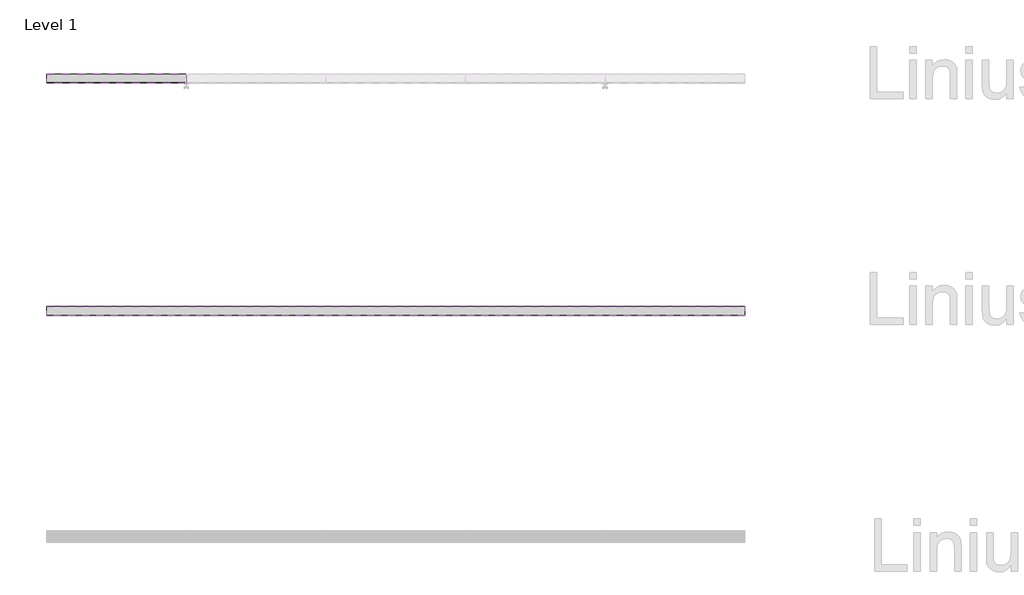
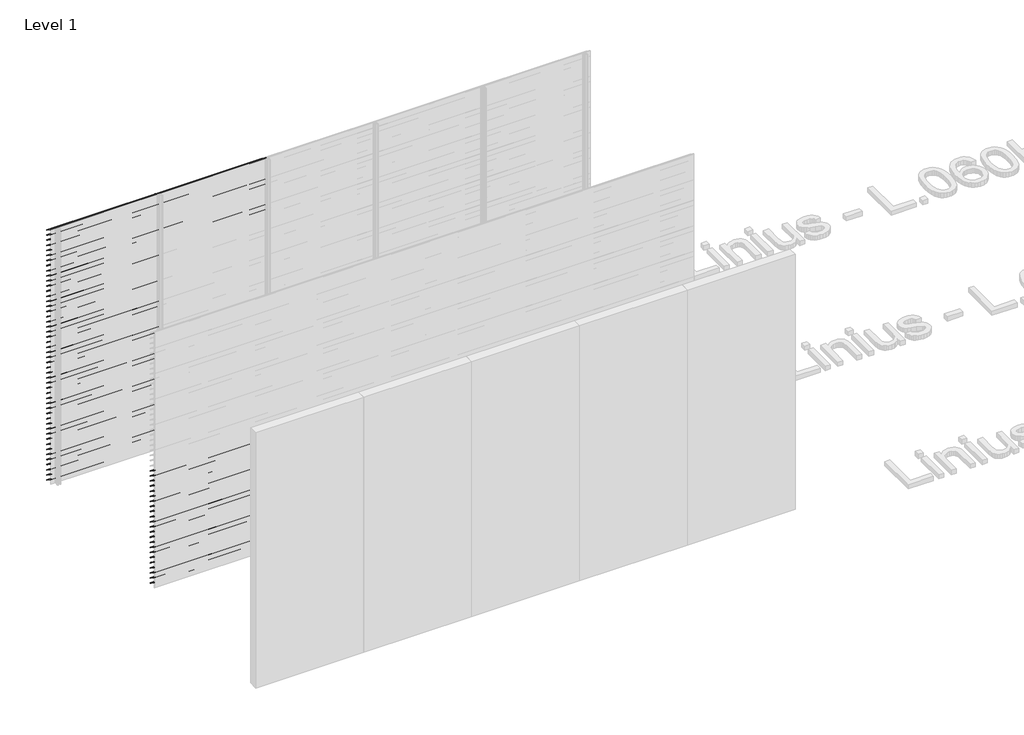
# One storey, part 20 of 153: 85 proxies.
"""IFC4 building model written with IfcOpenShell, lengths in millimetres."""

from ifc_helpers import new_model, si_unit, frame, origin, place, context, project, spatial, polyline, outline, extrude, element, save

model = new_model("IFC4")

# Units and contexts
model_context = context("Model", 3, world=origin())
ifc_project = project(units=[si_unit("LENGTHUNIT", "METRE", prefix="MILLI")], contexts=[model_context])

# Site, building, storey
site = spatial("IfcSite", under=ifc_project)
building = spatial("IfcBuilding", under=site)
storey = spatial("IfcBuildingStorey", under=building, Name="Level 1", Elevation=0.0)

# Proxies
placement = place(None, origin())
element("IfcBuildingElementProxy", 1, Name="Wall Sweeps", at=placement, inside=storey, context=model_context, shape_type="SweptSolid", body=[
    extrude(outline(polyline([(21561.0540136, 2946.0), (21561.0540136, 2940.0), (21559.8040136, 2940.7216933), (21559.8040136, 2945.2538091), (21483.0540136, 2993.9915103), (21483.0540136, 3000.0), (21484.3040136, 3000.0), (21484.3040136, 2994.7377012), (21561.0540136, 2946.0)])), frame((466.6208097, 0.0, 0.0), z_axis=(1.0, 0.0, 0.0), x_axis=(0.0, 1.0, 0.0)), (0.0, 0.0, 1.0), 1200.0000002),
])
element("IfcBuildingElementProxy", 2, Name="Wall Sweeps", at=placement, inside=storey, context=model_context, shape_type="SweptSolid", body=[
    extrude(outline(polyline([(21561.0540136, 2886.0), (21561.0540136, 2880.0), (21559.8040136, 2880.7216933), (21559.8040136, 2885.2538091), (21483.0540136, 2933.9915103), (21483.0540136, 2940.0), (21484.3040136, 2940.0), (21484.3040136, 2934.7377012), (21561.0540136, 2886.0)])), frame((466.6208097, 0.0, 0.0), z_axis=(1.0, 0.0, 0.0), x_axis=(0.0, 1.0, 0.0)), (0.0, 0.0, 1.0), 1200.0000002),
])
element("IfcBuildingElementProxy", 3, Name="Wall Sweeps", at=placement, inside=storey, context=model_context, shape_type="SweptSolid", body=[
    extrude(outline(polyline([(21561.0540136, 2826.0), (21561.0540136, 2820.0), (21559.8040136, 2820.7216933), (21559.8040136, 2825.2538091), (21483.0540136, 2873.9915103), (21483.0540136, 2880.0), (21484.3040136, 2880.0), (21484.3040136, 2874.7377012), (21561.0540136, 2826.0)])), frame((466.6208097, 0.0, 0.0), z_axis=(1.0, 0.0, 0.0), x_axis=(0.0, 1.0, 0.0)), (0.0, 0.0, 1.0), 1200.0000002),
])
element("IfcBuildingElementProxy", 4, Name="Wall Sweeps", at=placement, inside=storey, context=model_context, shape_type="SweptSolid", body=[
    extrude(outline(polyline([(21561.0540136, 2766.0), (21561.0540136, 2760.0), (21559.8040136, 2760.7216933), (21559.8040136, 2765.2538091), (21483.0540136, 2813.9915103), (21483.0540136, 2820.0), (21484.3040136, 2820.0), (21484.3040136, 2814.7377012), (21561.0540136, 2766.0)])), frame((466.6208097, 0.0, 0.0), z_axis=(1.0, 0.0, 0.0), x_axis=(0.0, 1.0, 0.0)), (0.0, 0.0, 1.0), 1200.0000002),
])
element("IfcBuildingElementProxy", 5, Name="Wall Sweeps", at=placement, inside=storey, context=model_context, shape_type="SweptSolid", body=[
    extrude(outline(polyline([(21561.0540136, 2706.0), (21561.0540136, 2700.0), (21559.8040136, 2700.7216933), (21559.8040136, 2705.2538091), (21483.0540136, 2753.9915103), (21483.0540136, 2760.0), (21484.3040136, 2760.0), (21484.3040136, 2754.7377012), (21561.0540136, 2706.0)])), frame((466.6208097, 0.0, 0.0), z_axis=(1.0, 0.0, 0.0), x_axis=(0.0, 1.0, 0.0)), (0.0, 0.0, 1.0), 1200.0000002),
])
element("IfcBuildingElementProxy", 6, Name="Wall Sweeps", at=placement, inside=storey, context=model_context, shape_type="SweptSolid", body=[
    extrude(outline(polyline([(21561.0540136, 2646.0), (21561.0540136, 2640.0), (21559.8040136, 2640.7216933), (21559.8040136, 2645.2538091), (21483.0540136, 2693.9915103), (21483.0540136, 2700.0), (21484.3040136, 2700.0), (21484.3040136, 2694.7377012), (21561.0540136, 2646.0)])), frame((466.6208097, 0.0, 0.0), z_axis=(1.0, 0.0, 0.0), x_axis=(0.0, 1.0, 0.0)), (0.0, 0.0, 1.0), 1200.0000002),
])
element("IfcBuildingElementProxy", 7, Name="Wall Sweeps", at=placement, inside=storey, context=model_context, shape_type="SweptSolid", body=[
    extrude(outline(polyline([(21561.0540136, 2586.0), (21561.0540136, 2580.0), (21559.8040136, 2580.7216933), (21559.8040136, 2585.2538091), (21483.0540136, 2633.9915103), (21483.0540136, 2640.0), (21484.3040136, 2640.0), (21484.3040136, 2634.7377012), (21561.0540136, 2586.0)])), frame((466.6208097, 0.0, 0.0), z_axis=(1.0, 0.0, 0.0), x_axis=(0.0, 1.0, 0.0)), (0.0, 0.0, 1.0), 1200.0000002),
])
element("IfcBuildingElementProxy", 8, Name="Wall Sweeps", at=placement, inside=storey, context=model_context, shape_type="SweptSolid", body=[
    extrude(outline(polyline([(21561.0540136, 2526.0), (21561.0540136, 2520.0), (21559.8040136, 2520.7216933), (21559.8040136, 2525.2538091), (21483.0540136, 2573.9915103), (21483.0540136, 2580.0), (21484.3040136, 2580.0), (21484.3040136, 2574.7377012), (21561.0540136, 2526.0)])), frame((466.6208097, 0.0, 0.0), z_axis=(1.0, 0.0, 0.0), x_axis=(0.0, 1.0, 0.0)), (0.0, 0.0, 1.0), 1200.0000002),
])
element("IfcBuildingElementProxy", 9, Name="Wall Sweeps", at=placement, inside=storey, context=model_context, shape_type="SweptSolid", body=[
    extrude(outline(polyline([(21561.0540136, 2466.0), (21561.0540136, 2460.0), (21559.8040136, 2460.7216933), (21559.8040136, 2465.2538091), (21483.0540136, 2513.9915103), (21483.0540136, 2520.0), (21484.3040136, 2520.0), (21484.3040136, 2514.7377012), (21561.0540136, 2466.0)])), frame((466.6208097, 0.0, 0.0), z_axis=(1.0, 0.0, 0.0), x_axis=(0.0, 1.0, 0.0)), (0.0, 0.0, 1.0), 1200.0000002),
])
element("IfcBuildingElementProxy", 10, Name="Wall Sweeps", at=placement, inside=storey, context=model_context, shape_type="SweptSolid", body=[
    extrude(outline(polyline([(21561.0540136, 2406.0), (21561.0540136, 2400.0), (21559.8040136, 2400.7216933), (21559.8040136, 2405.2538091), (21483.0540136, 2453.9915103), (21483.0540136, 2460.0), (21484.3040136, 2460.0), (21484.3040136, 2454.7377012), (21561.0540136, 2406.0)])), frame((466.6208097, 0.0, 0.0), z_axis=(1.0, 0.0, 0.0), x_axis=(0.0, 1.0, 0.0)), (0.0, 0.0, 1.0), 1200.0000002),
])
element("IfcBuildingElementProxy", 11, Name="Wall Sweeps", at=placement, inside=storey, context=model_context, shape_type="SweptSolid", body=[
    extrude(outline(polyline([(21561.0540136, 2346.0), (21561.0540136, 2340.0), (21559.8040136, 2340.7216933), (21559.8040136, 2345.2538091), (21483.0540136, 2393.9915103), (21483.0540136, 2400.0), (21484.3040136, 2400.0), (21484.3040136, 2394.7377012), (21561.0540136, 2346.0)])), frame((466.6208097, 0.0, 0.0), z_axis=(1.0, 0.0, 0.0), x_axis=(0.0, 1.0, 0.0)), (0.0, 0.0, 1.0), 1200.0000002),
])
element("IfcBuildingElementProxy", 12, Name="Wall Sweeps", at=placement, inside=storey, context=model_context, shape_type="SweptSolid", body=[
    extrude(outline(polyline([(21561.0540136, 2286.0), (21561.0540136, 2280.0), (21559.8040136, 2280.7216933), (21559.8040136, 2285.2538091), (21483.0540136, 2333.9915103), (21483.0540136, 2340.0), (21484.3040136, 2340.0), (21484.3040136, 2334.7377012), (21561.0540136, 2286.0)])), frame((466.6208097, 0.0, 0.0), z_axis=(1.0, 0.0, 0.0), x_axis=(0.0, 1.0, 0.0)), (0.0, 0.0, 1.0), 1200.0000002),
])
element("IfcBuildingElementProxy", 13, Name="Wall Sweeps", at=placement, inside=storey, context=model_context, shape_type="SweptSolid", body=[
    extrude(outline(polyline([(21561.0540136, 2226.0), (21561.0540136, 2220.0), (21559.8040136, 2220.7216933), (21559.8040136, 2225.2538091), (21483.0540136, 2273.9915103), (21483.0540136, 2280.0), (21484.3040136, 2280.0), (21484.3040136, 2274.7377012), (21561.0540136, 2226.0)])), frame((466.6208097, 0.0, 0.0), z_axis=(1.0, 0.0, 0.0), x_axis=(0.0, 1.0, 0.0)), (0.0, 0.0, 1.0), 1200.0000002),
])
element("IfcBuildingElementProxy", 14, Name="Wall Sweeps", at=placement, inside=storey, context=model_context, shape_type="SweptSolid", body=[
    extrude(outline(polyline([(21561.0540136, 2166.0), (21561.0540136, 2160.0), (21559.8040136, 2160.7216933), (21559.8040136, 2165.2538091), (21483.0540136, 2213.9915103), (21483.0540136, 2220.0), (21484.3040136, 2220.0), (21484.3040136, 2214.7377012), (21561.0540136, 2166.0)])), frame((466.6208097, 0.0, 0.0), z_axis=(1.0, 0.0, 0.0), x_axis=(0.0, 1.0, 0.0)), (0.0, 0.0, 1.0), 1200.0000002),
])
element("IfcBuildingElementProxy", 15, Name="Wall Sweeps", at=placement, inside=storey, context=model_context, shape_type="SweptSolid", body=[
    extrude(outline(polyline([(21561.0540136, 2106.0), (21561.0540136, 2100.0), (21559.8040136, 2100.7216933), (21559.8040136, 2105.2538091), (21483.0540136, 2153.9915103), (21483.0540136, 2160.0), (21484.3040136, 2160.0), (21484.3040136, 2154.7377012), (21561.0540136, 2106.0)])), frame((466.6208097, 0.0, 0.0), z_axis=(1.0, 0.0, 0.0), x_axis=(0.0, 1.0, 0.0)), (0.0, 0.0, 1.0), 1200.0000002),
])
element("IfcBuildingElementProxy", 16, Name="Wall Sweeps", at=placement, inside=storey, context=model_context, shape_type="SweptSolid", body=[
    extrude(outline(polyline([(21561.0540136, 2046.0), (21561.0540136, 2040.0), (21559.8040136, 2040.7216933), (21559.8040136, 2045.2538091), (21483.0540136, 2093.9915103), (21483.0540136, 2100.0), (21484.3040136, 2100.0), (21484.3040136, 2094.7377012), (21561.0540136, 2046.0)])), frame((466.6208097, 0.0, 0.0), z_axis=(1.0, 0.0, 0.0), x_axis=(0.0, 1.0, 0.0)), (0.0, 0.0, 1.0), 1200.0000002),
])
element("IfcBuildingElementProxy", 17, Name="Wall Sweeps", at=placement, inside=storey, context=model_context, shape_type="SweptSolid", body=[
    extrude(outline(polyline([(21561.0540136, 1986.0), (21561.0540136, 1980.0), (21559.8040136, 1980.7216933), (21559.8040136, 1985.2538091), (21483.0540136, 2033.9915103), (21483.0540136, 2040.0), (21484.3040136, 2040.0), (21484.3040136, 2034.7377012), (21561.0540136, 1986.0)])), frame((466.6208097, 0.0, 0.0), z_axis=(1.0, 0.0, 0.0), x_axis=(0.0, 1.0, 0.0)), (0.0, 0.0, 1.0), 1200.0000002),
])
element("IfcBuildingElementProxy", 18, Name="Wall Sweeps", at=placement, inside=storey, context=model_context, shape_type="SweptSolid", body=[
    extrude(outline(polyline([(21561.0540136, 1926.0), (21561.0540136, 1920.0), (21559.8040136, 1920.7216933), (21559.8040136, 1925.2538091), (21483.0540136, 1973.9915103), (21483.0540136, 1980.0), (21484.3040136, 1980.0), (21484.3040136, 1974.7377012), (21561.0540136, 1926.0)])), frame((466.6208097, 0.0, 0.0), z_axis=(1.0, 0.0, 0.0), x_axis=(0.0, 1.0, 0.0)), (0.0, 0.0, 1.0), 1200.0000002),
])
element("IfcBuildingElementProxy", 19, Name="Wall Sweeps", at=placement, inside=storey, context=model_context, shape_type="SweptSolid", body=[
    extrude(outline(polyline([(21561.0540136, 1866.0), (21561.0540136, 1860.0), (21559.8040136, 1860.7216933), (21559.8040136, 1865.2538091), (21483.0540136, 1913.9915103), (21483.0540136, 1920.0), (21484.3040136, 1920.0), (21484.3040136, 1914.7377012), (21561.0540136, 1866.0)])), frame((466.6208097, 0.0, 0.0), z_axis=(1.0, 0.0, 0.0), x_axis=(0.0, 1.0, 0.0)), (0.0, 0.0, 1.0), 1200.0000002),
])
element("IfcBuildingElementProxy", 20, Name="Wall Sweeps", at=placement, inside=storey, context=model_context, shape_type="SweptSolid", body=[
    extrude(outline(polyline([(21561.0540136, 1806.0), (21561.0540136, 1800.0), (21559.8040136, 1800.7216933), (21559.8040136, 1805.2538091), (21483.0540136, 1853.9915103), (21483.0540136, 1860.0), (21484.3040136, 1860.0), (21484.3040136, 1854.7377012), (21561.0540136, 1806.0)])), frame((466.6208097, 0.0, 0.0), z_axis=(1.0, 0.0, 0.0), x_axis=(0.0, 1.0, 0.0)), (0.0, 0.0, 1.0), 1200.0000002),
])
element("IfcBuildingElementProxy", 21, Name="Wall Sweeps", at=placement, inside=storey, context=model_context, shape_type="SweptSolid", body=[
    extrude(outline(polyline([(21561.0540136, 1746.0), (21561.0540136, 1740.0), (21559.8040136, 1740.7216933), (21559.8040136, 1745.2538091), (21483.0540136, 1793.9915103), (21483.0540136, 1800.0), (21484.3040136, 1800.0), (21484.3040136, 1794.7377012), (21561.0540136, 1746.0)])), frame((466.6208097, 0.0, 0.0), z_axis=(1.0, 0.0, 0.0), x_axis=(0.0, 1.0, 0.0)), (0.0, 0.0, 1.0), 1200.0000002),
])
element("IfcBuildingElementProxy", 22, Name="Wall Sweeps", at=placement, inside=storey, context=model_context, shape_type="SweptSolid", body=[
    extrude(outline(polyline([(21561.0540136, 1686.0), (21561.0540136, 1680.0), (21559.8040136, 1680.7216933), (21559.8040136, 1685.2538091), (21483.0540136, 1733.9915103), (21483.0540136, 1740.0), (21484.3040136, 1740.0), (21484.3040136, 1734.7377012), (21561.0540136, 1686.0)])), frame((466.6208097, 0.0, 0.0), z_axis=(1.0, 0.0, 0.0), x_axis=(0.0, 1.0, 0.0)), (0.0, 0.0, 1.0), 1200.0000002),
])
element("IfcBuildingElementProxy", 23, Name="Wall Sweeps", at=placement, inside=storey, context=model_context, shape_type="SweptSolid", body=[
    extrude(outline(polyline([(21561.0540136, 1626.0), (21561.0540136, 1620.0), (21559.8040136, 1620.7216933), (21559.8040136, 1625.2538091), (21483.0540136, 1673.9915103), (21483.0540136, 1680.0), (21484.3040136, 1680.0), (21484.3040136, 1674.7377012), (21561.0540136, 1626.0)])), frame((466.6208097, 0.0, 0.0), z_axis=(1.0, 0.0, 0.0), x_axis=(0.0, 1.0, 0.0)), (0.0, 0.0, 1.0), 1200.0000002),
])
element("IfcBuildingElementProxy", 24, Name="Wall Sweeps", at=placement, inside=storey, context=model_context, shape_type="SweptSolid", body=[
    extrude(outline(polyline([(21561.0540136, 1566.0), (21561.0540136, 1560.0), (21559.8040136, 1560.7216933), (21559.8040136, 1565.2538091), (21483.0540136, 1613.9915103), (21483.0540136, 1620.0), (21484.3040136, 1620.0), (21484.3040136, 1614.7377012), (21561.0540136, 1566.0)])), frame((466.6208097, 0.0, 0.0), z_axis=(1.0, 0.0, 0.0), x_axis=(0.0, 1.0, 0.0)), (0.0, 0.0, 1.0), 1200.0000002),
])
element("IfcBuildingElementProxy", 25, Name="Wall Sweeps", at=placement, inside=storey, context=model_context, shape_type="SweptSolid", body=[
    extrude(outline(polyline([(21561.0540136, 1506.0), (21561.0540136, 1500.0), (21559.8040136, 1500.7216933), (21559.8040136, 1505.2538091), (21483.0540136, 1553.9915103), (21483.0540136, 1560.0), (21484.3040136, 1560.0), (21484.3040136, 1554.7377012), (21561.0540136, 1506.0)])), frame((466.6208097, 0.0, 0.0), z_axis=(1.0, 0.0, 0.0), x_axis=(0.0, 1.0, 0.0)), (0.0, 0.0, 1.0), 1200.0000002),
])
element("IfcBuildingElementProxy", 26, Name="Wall Sweeps", at=placement, inside=storey, context=model_context, shape_type="SweptSolid", body=[
    extrude(outline(polyline([(21561.0540136, 1446.0), (21561.0540136, 1440.0), (21559.8040136, 1440.7216933), (21559.8040136, 1445.2538091), (21483.0540136, 1493.9915103), (21483.0540136, 1500.0), (21484.3040136, 1500.0), (21484.3040136, 1494.7377012), (21561.0540136, 1446.0)])), frame((466.6208097, 0.0, 0.0), z_axis=(1.0, 0.0, 0.0), x_axis=(0.0, 1.0, 0.0)), (0.0, 0.0, 1.0), 1200.0000002),
])
element("IfcBuildingElementProxy", 27, Name="Wall Sweeps", at=placement, inside=storey, context=model_context, shape_type="SweptSolid", body=[
    extrude(outline(polyline([(21561.0540136, 1386.0), (21561.0540136, 1380.0), (21559.8040136, 1380.7216933), (21559.8040136, 1385.2538091), (21483.0540136, 1433.9915103), (21483.0540136, 1440.0), (21484.3040136, 1440.0), (21484.3040136, 1434.7377012), (21561.0540136, 1386.0)])), frame((466.6208097, 0.0, 0.0), z_axis=(1.0, 0.0, 0.0), x_axis=(0.0, 1.0, 0.0)), (0.0, 0.0, 1.0), 1200.0000002),
])
element("IfcBuildingElementProxy", 28, Name="Wall Sweeps", at=placement, inside=storey, context=model_context, shape_type="SweptSolid", body=[
    extrude(outline(polyline([(21561.0540136, 1326.0), (21561.0540136, 1320.0), (21559.8040136, 1320.7216933), (21559.8040136, 1325.2538091), (21483.0540136, 1373.9915103), (21483.0540136, 1380.0), (21484.3040136, 1380.0), (21484.3040136, 1374.7377012), (21561.0540136, 1326.0)])), frame((466.6208097, 0.0, 0.0), z_axis=(1.0, 0.0, 0.0), x_axis=(0.0, 1.0, 0.0)), (0.0, 0.0, 1.0), 1200.0000002),
])
element("IfcBuildingElementProxy", 29, Name="Wall Sweeps", at=placement, inside=storey, context=model_context, shape_type="SweptSolid", body=[
    extrude(outline(polyline([(21561.0540136, 1266.0), (21561.0540136, 1260.0), (21559.8040136, 1260.7216933), (21559.8040136, 1265.2538091), (21483.0540136, 1313.9915103), (21483.0540136, 1320.0), (21484.3040136, 1320.0), (21484.3040136, 1314.7377012), (21561.0540136, 1266.0)])), frame((466.6208097, 0.0, 0.0), z_axis=(1.0, 0.0, 0.0), x_axis=(0.0, 1.0, 0.0)), (0.0, 0.0, 1.0), 1200.0000002),
])
element("IfcBuildingElementProxy", 30, Name="Wall Sweeps", at=placement, inside=storey, context=model_context, shape_type="SweptSolid", body=[
    extrude(outline(polyline([(21561.0540136, 1206.0), (21561.0540136, 1200.0), (21559.8040136, 1200.7216933), (21559.8040136, 1205.2538091), (21483.0540136, 1253.9915103), (21483.0540136, 1260.0), (21484.3040136, 1260.0), (21484.3040136, 1254.7377012), (21561.0540136, 1206.0)])), frame((466.6208097, 0.0, 0.0), z_axis=(1.0, 0.0, 0.0), x_axis=(0.0, 1.0, 0.0)), (0.0, 0.0, 1.0), 1200.0000002),
])
element("IfcBuildingElementProxy", 31, Name="Wall Sweeps", at=placement, inside=storey, context=model_context, shape_type="SweptSolid", body=[
    extrude(outline(polyline([(21561.0540136, 1146.0), (21561.0540136, 1140.0), (21559.8040136, 1140.7216933), (21559.8040136, 1145.2538091), (21483.0540136, 1193.9915103), (21483.0540136, 1200.0), (21484.3040136, 1200.0), (21484.3040136, 1194.7377012), (21561.0540136, 1146.0)])), frame((466.6208097, 0.0, 0.0), z_axis=(1.0, 0.0, 0.0), x_axis=(0.0, 1.0, 0.0)), (0.0, 0.0, 1.0), 1200.0000002),
])
element("IfcBuildingElementProxy", 32, Name="Wall Sweeps", at=placement, inside=storey, context=model_context, shape_type="SweptSolid", body=[
    extrude(outline(polyline([(21561.0540136, 1086.0), (21561.0540136, 1080.0), (21559.8040136, 1080.7216933), (21559.8040136, 1085.2538091), (21483.0540136, 1133.9915103), (21483.0540136, 1140.0), (21484.3040136, 1140.0), (21484.3040136, 1134.7377012), (21561.0540136, 1086.0)])), frame((466.6208097, 0.0, 0.0), z_axis=(1.0, 0.0, 0.0), x_axis=(0.0, 1.0, 0.0)), (0.0, 0.0, 1.0), 1200.0000002),
])
element("IfcBuildingElementProxy", 33, Name="Wall Sweeps", at=placement, inside=storey, context=model_context, shape_type="SweptSolid", body=[
    extrude(outline(polyline([(21561.0540136, 1026.0), (21561.0540136, 1020.0), (21559.8040136, 1020.7216933), (21559.8040136, 1025.2538091), (21483.0540136, 1073.9915103), (21483.0540136, 1080.0), (21484.3040136, 1080.0), (21484.3040136, 1074.7377012), (21561.0540136, 1026.0)])), frame((466.6208097, 0.0, 0.0), z_axis=(1.0, 0.0, 0.0), x_axis=(0.0, 1.0, 0.0)), (0.0, 0.0, 1.0), 1200.0000002),
])
element("IfcBuildingElementProxy", 34, Name="Wall Sweeps", at=placement, inside=storey, context=model_context, shape_type="SweptSolid", body=[
    extrude(outline(polyline([(21561.0540136, 966.0), (21561.0540136, 960.0), (21559.8040136, 960.7216933), (21559.8040136, 965.2538091), (21483.0540136, 1013.9915103), (21483.0540136, 1020.0), (21484.3040136, 1020.0), (21484.3040136, 1014.7377012), (21561.0540136, 966.0)])), frame((466.6208097, 0.0, 0.0), z_axis=(1.0, 0.0, 0.0), x_axis=(0.0, 1.0, 0.0)), (0.0, 0.0, 1.0), 1200.0000002),
])
element("IfcBuildingElementProxy", 35, Name="Wall Sweeps", at=placement, inside=storey, context=model_context, shape_type="SweptSolid", body=[
    extrude(outline(polyline([(21561.0540136, 906.0), (21561.0540136, 900.0), (21559.8040136, 900.7216933), (21559.8040136, 905.2538091), (21483.0540136, 953.9915103), (21483.0540136, 960.0), (21484.3040136, 960.0), (21484.3040136, 954.7377012), (21561.0540136, 906.0)])), frame((466.6208097, 0.0, 0.0), z_axis=(1.0, 0.0, 0.0), x_axis=(0.0, 1.0, 0.0)), (0.0, 0.0, 1.0), 1200.0000002),
])
element("IfcBuildingElementProxy", 36, Name="Wall Sweeps", at=placement, inside=storey, context=model_context, shape_type="SweptSolid", body=[
    extrude(outline(polyline([(21561.0540136, 846.0), (21561.0540136, 840.0), (21559.8040136, 840.7216933), (21559.8040136, 845.2538091), (21483.0540136, 893.9915103), (21483.0540136, 900.0), (21484.3040136, 900.0), (21484.3040136, 894.7377012), (21561.0540136, 846.0)])), frame((466.6208097, 0.0, 0.0), z_axis=(1.0, 0.0, 0.0), x_axis=(0.0, 1.0, 0.0)), (0.0, 0.0, 1.0), 1200.0000002),
])
element("IfcBuildingElementProxy", 37, Name="Wall Sweeps", at=placement, inside=storey, context=model_context, shape_type="SweptSolid", body=[
    extrude(outline(polyline([(21561.0540136, 786.0), (21561.0540136, 780.0), (21559.8040136, 780.7216933), (21559.8040136, 785.2538091), (21483.0540136, 833.9915103), (21483.0540136, 840.0), (21484.3040136, 840.0), (21484.3040136, 834.7377012), (21561.0540136, 786.0)])), frame((466.6208097, 0.0, 0.0), z_axis=(1.0, 0.0, 0.0), x_axis=(0.0, 1.0, 0.0)), (0.0, 0.0, 1.0), 1200.0000002),
])
element("IfcBuildingElementProxy", 38, Name="Wall Sweeps", at=placement, inside=storey, context=model_context, shape_type="SweptSolid", body=[
    extrude(outline(polyline([(21561.0540136, 726.0), (21561.0540136, 720.0), (21559.8040136, 720.7216933), (21559.8040136, 725.2538091), (21483.0540136, 773.9915103), (21483.0540136, 780.0), (21484.3040136, 780.0), (21484.3040136, 774.7377012), (21561.0540136, 726.0)])), frame((466.6208097, 0.0, 0.0), z_axis=(1.0, 0.0, 0.0), x_axis=(0.0, 1.0, 0.0)), (0.0, 0.0, 1.0), 1200.0000002),
])
element("IfcBuildingElementProxy", 39, Name="Wall Sweeps", at=placement, inside=storey, context=model_context, shape_type="SweptSolid", body=[
    extrude(outline(polyline([(21561.0540136, 666.0), (21561.0540136, 660.0), (21559.8040136, 660.7216933), (21559.8040136, 665.2538091), (21483.0540136, 713.9915103), (21483.0540136, 720.0), (21484.3040136, 720.0), (21484.3040136, 714.7377012), (21561.0540136, 666.0)])), frame((466.6208097, 0.0, 0.0), z_axis=(1.0, 0.0, 0.0), x_axis=(0.0, 1.0, 0.0)), (0.0, 0.0, 1.0), 1200.0000002),
])
element("IfcBuildingElementProxy", 40, Name="Wall Sweeps", at=placement, inside=storey, context=model_context, shape_type="SweptSolid", body=[
    extrude(outline(polyline([(21561.0540136, 606.0), (21561.0540136, 600.0), (21559.8040136, 600.7216933), (21559.8040136, 605.2538091), (21483.0540136, 653.9915103), (21483.0540136, 660.0), (21484.3040136, 660.0), (21484.3040136, 654.7377012), (21561.0540136, 606.0)])), frame((466.6208097, 0.0, 0.0), z_axis=(1.0, 0.0, 0.0), x_axis=(0.0, 1.0, 0.0)), (0.0, 0.0, 1.0), 1200.0000002),
])
element("IfcBuildingElementProxy", 41, Name="Wall Sweeps", at=placement, inside=storey, context=model_context, shape_type="SweptSolid", body=[
    extrude(outline(polyline([(21561.0540136, 546.0), (21561.0540136, 540.0), (21559.8040136, 540.7216933), (21559.8040136, 545.2538091), (21483.0540136, 593.9915103), (21483.0540136, 600.0), (21484.3040136, 600.0), (21484.3040136, 594.7377012), (21561.0540136, 546.0)])), frame((466.6208097, 0.0, 0.0), z_axis=(1.0, 0.0, 0.0), x_axis=(0.0, 1.0, 0.0)), (0.0, 0.0, 1.0), 1200.0000002),
])
element("IfcBuildingElementProxy", 42, Name="Wall Sweeps", at=placement, inside=storey, context=model_context, shape_type="SweptSolid", body=[
    extrude(outline(polyline([(21561.0540136, 486.0), (21561.0540136, 480.0), (21559.8040136, 480.7216933), (21559.8040136, 485.2538091), (21483.0540136, 533.9915103), (21483.0540136, 540.0), (21484.3040136, 540.0), (21484.3040136, 534.7377012), (21561.0540136, 486.0)])), frame((466.6208097, 0.0, 0.0), z_axis=(1.0, 0.0, 0.0), x_axis=(0.0, 1.0, 0.0)), (0.0, 0.0, 1.0), 1200.0000002),
])
element("IfcBuildingElementProxy", 43, Name="Wall Sweeps", at=placement, inside=storey, context=model_context, shape_type="SweptSolid", body=[
    extrude(outline(polyline([(21561.0540136, 426.0), (21561.0540136, 420.0), (21559.8040136, 420.7216933), (21559.8040136, 425.2538091), (21483.0540136, 473.9915103), (21483.0540136, 480.0), (21484.3040136, 480.0), (21484.3040136, 474.7377012), (21561.0540136, 426.0)])), frame((466.6208097, 0.0, 0.0), z_axis=(1.0, 0.0, 0.0), x_axis=(0.0, 1.0, 0.0)), (0.0, 0.0, 1.0), 1200.0000002),
])
element("IfcBuildingElementProxy", 44, Name="Wall Sweeps", at=placement, inside=storey, context=model_context, shape_type="SweptSolid", body=[
    extrude(outline(polyline([(21561.0540136, 366.0), (21561.0540136, 360.0), (21559.8040136, 360.7216933), (21559.8040136, 365.2538091), (21483.0540136, 413.9915103), (21483.0540136, 420.0), (21484.3040136, 420.0), (21484.3040136, 414.7377012), (21561.0540136, 366.0)])), frame((466.6208097, 0.0, 0.0), z_axis=(1.0, 0.0, 0.0), x_axis=(0.0, 1.0, 0.0)), (0.0, 0.0, 1.0), 1200.0000002),
])
element("IfcBuildingElementProxy", 45, Name="Wall Sweeps", at=placement, inside=storey, context=model_context, shape_type="SweptSolid", body=[
    extrude(outline(polyline([(21561.0540136, 306.0), (21561.0540136, 300.0), (21559.8040136, 300.7216933), (21559.8040136, 305.2538091), (21483.0540136, 353.9915103), (21483.0540136, 360.0), (21484.3040136, 360.0), (21484.3040136, 354.7377012), (21561.0540136, 306.0)])), frame((466.6208097, 0.0, 0.0), z_axis=(1.0, 0.0, 0.0), x_axis=(0.0, 1.0, 0.0)), (0.0, 0.0, 1.0), 1200.0000002),
])
element("IfcBuildingElementProxy", 46, Name="Wall Sweeps", at=placement, inside=storey, context=model_context, shape_type="SweptSolid", body=[
    extrude(outline(polyline([(21561.0540136, 246.0), (21561.0540136, 240.0), (21559.8040136, 240.7216933), (21559.8040136, 245.2538091), (21483.0540136, 293.9915103), (21483.0540136, 300.0), (21484.3040136, 300.0), (21484.3040136, 294.7377012), (21561.0540136, 246.0)])), frame((466.6208097, 0.0, 0.0), z_axis=(1.0, 0.0, 0.0), x_axis=(0.0, 1.0, 0.0)), (0.0, 0.0, 1.0), 1200.0000002),
])
element("IfcBuildingElementProxy", 47, Name="Wall Sweeps", at=placement, inside=storey, context=model_context, shape_type="SweptSolid", body=[
    extrude(outline(polyline([(21561.0540136, 186.0), (21561.0540136, 180.0), (21559.8040136, 180.7216933), (21559.8040136, 185.2538091), (21483.0540136, 233.9915103), (21483.0540136, 240.0), (21484.3040136, 240.0), (21484.3040136, 234.7377012), (21561.0540136, 186.0)])), frame((466.6208097, 0.0, 0.0), z_axis=(1.0, 0.0, 0.0), x_axis=(0.0, 1.0, 0.0)), (0.0, 0.0, 1.0), 1200.0000002),
])
element("IfcBuildingElementProxy", 48, Name="Wall Sweeps", at=placement, inside=storey, context=model_context, shape_type="SweptSolid", body=[
    extrude(outline(polyline([(21561.0540136, 126.0), (21561.0540136, 120.0), (21559.8040136, 120.7216933), (21559.8040136, 125.2538091), (21483.0540136, 173.9915103), (21483.0540136, 180.0), (21484.3040136, 180.0), (21484.3040136, 174.7377012), (21561.0540136, 126.0)])), frame((466.6208097, 0.0, 0.0), z_axis=(1.0, 0.0, 0.0), x_axis=(0.0, 1.0, 0.0)), (0.0, 0.0, 1.0), 1200.0000002),
])
element("IfcBuildingElementProxy", 49, Name="Wall Sweeps", at=placement, inside=storey, context=model_context, shape_type="SweptSolid", body=[
    extrude(outline(polyline([(21561.0540136, 66.0), (21561.0540136, 60.0), (21559.8040136, 60.7216933), (21559.8040136, 65.2538091), (21483.0540136, 113.9915103), (21483.0540136, 120.0), (21484.3040136, 120.0), (21484.3040136, 114.7377012), (21561.0540136, 66.0)])), frame((466.6208097, 0.0, 0.0), z_axis=(1.0, 0.0, 0.0), x_axis=(0.0, 1.0, 0.0)), (0.0, 0.0, 1.0), 1200.0000002),
])
element("IfcBuildingElementProxy", 50, Name="Wall Sweeps", at=placement, inside=storey, context=model_context, shape_type="SweptSolid", body=[
    extrude(outline(polyline([(21561.0540136, 6.0), (21561.0540136, 0.0), (21559.8040136, 0.7216933), (21559.8040136, 5.2538091), (21483.0540136, 53.9915103), (21483.0540136, 60.0), (21484.3040136, 60.0), (21484.3040136, 54.7377012), (21561.0540136, 6.0)])), frame((466.6208097, 0.0, 0.0), z_axis=(1.0, 0.0, 0.0), x_axis=(0.0, 1.0, 0.0)), (0.0, 0.0, 1.0), 1200.0000002),
])
element("IfcBuildingElementProxy", 51, Name="Wall Sweeps", at=placement, inside=storey, context=model_context, shape_type="SweptSolid", body=[
    extrude(outline(polyline([(21561.0540136, 2946.0), (21561.0540136, 2940.0), (21559.8040136, 2940.7216933), (21559.8040136, 2945.2538091), (21483.0540136, 2993.9915103), (21483.0540136, 3000.0), (21484.3040136, 3000.0), (21484.3040136, 2994.7377012), (21561.0540136, 2946.0)])), frame((1666.6208099, 0.0, 0.0), z_axis=(1.0, 0.0, 0.0), x_axis=(0.0, 1.0, 0.0)), (0.0, 0.0, 1.0), 1199.9999999),
])
element("IfcBuildingElementProxy", 52, Name="Wall Sweeps", at=placement, inside=storey, context=model_context, shape_type="SweptSolid", body=[
    extrude(outline(polyline([(21561.0540136, 2886.0), (21561.0540136, 2880.0), (21559.8040136, 2880.7216933), (21559.8040136, 2885.2538091), (21483.0540136, 2933.9915103), (21483.0540136, 2940.0), (21484.3040136, 2940.0), (21484.3040136, 2934.7377012), (21561.0540136, 2886.0)])), frame((1666.6208099, 0.0, 0.0), z_axis=(1.0, 0.0, 0.0), x_axis=(0.0, 1.0, 0.0)), (0.0, 0.0, 1.0), 1199.9999999),
])
element("IfcBuildingElementProxy", 53, Name="Wall Sweeps", at=placement, inside=storey, context=model_context, shape_type="SweptSolid", body=[
    extrude(outline(polyline([(21561.0540136, 2826.0), (21561.0540136, 2820.0), (21559.8040136, 2820.7216933), (21559.8040136, 2825.2538091), (21483.0540136, 2873.9915103), (21483.0540136, 2880.0), (21484.3040136, 2880.0), (21484.3040136, 2874.7377012), (21561.0540136, 2826.0)])), frame((1666.6208099, 0.0, 0.0), z_axis=(1.0, 0.0, 0.0), x_axis=(0.0, 1.0, 0.0)), (0.0, 0.0, 1.0), 1199.9999999),
])
element("IfcBuildingElementProxy", 54, Name="Wall Sweeps", at=placement, inside=storey, context=model_context, shape_type="SweptSolid", body=[
    extrude(outline(polyline([(21561.0540136, 2766.0), (21561.0540136, 2760.0), (21559.8040136, 2760.7216933), (21559.8040136, 2765.2538091), (21483.0540136, 2813.9915103), (21483.0540136, 2820.0), (21484.3040136, 2820.0), (21484.3040136, 2814.7377012), (21561.0540136, 2766.0)])), frame((1666.6208099, 0.0, 0.0), z_axis=(1.0, 0.0, 0.0), x_axis=(0.0, 1.0, 0.0)), (0.0, 0.0, 1.0), 1199.9999999),
])
element("IfcBuildingElementProxy", 55, Name="Wall Sweeps", at=placement, inside=storey, context=model_context, shape_type="SweptSolid", body=[
    extrude(outline(polyline([(21561.0540136, 2706.0), (21561.0540136, 2700.0), (21559.8040136, 2700.7216933), (21559.8040136, 2705.2538091), (21483.0540136, 2753.9915103), (21483.0540136, 2760.0), (21484.3040136, 2760.0), (21484.3040136, 2754.7377012), (21561.0540136, 2706.0)])), frame((1666.6208099, 0.0, 0.0), z_axis=(1.0, 0.0, 0.0), x_axis=(0.0, 1.0, 0.0)), (0.0, 0.0, 1.0), 1199.9999999),
])
element("IfcBuildingElementProxy", 56, Name="Wall Sweeps", at=placement, inside=storey, context=model_context, shape_type="SweptSolid", body=[
    extrude(outline(polyline([(21561.0540136, 2646.0), (21561.0540136, 2640.0), (21559.8040136, 2640.7216933), (21559.8040136, 2645.2538091), (21483.0540136, 2693.9915103), (21483.0540136, 2700.0), (21484.3040136, 2700.0), (21484.3040136, 2694.7377012), (21561.0540136, 2646.0)])), frame((1666.6208099, 0.0, 0.0), z_axis=(1.0, 0.0, 0.0), x_axis=(0.0, 1.0, 0.0)), (0.0, 0.0, 1.0), 1199.9999999),
])
element("IfcBuildingElementProxy", 57, Name="Wall Sweeps", at=placement, inside=storey, context=model_context, shape_type="SweptSolid", body=[
    extrude(outline(polyline([(21561.0540136, 2586.0), (21561.0540136, 2580.0), (21559.8040136, 2580.7216933), (21559.8040136, 2585.2538091), (21483.0540136, 2633.9915103), (21483.0540136, 2640.0), (21484.3040136, 2640.0), (21484.3040136, 2634.7377012), (21561.0540136, 2586.0)])), frame((1666.6208099, 0.0, 0.0), z_axis=(1.0, 0.0, 0.0), x_axis=(0.0, 1.0, 0.0)), (0.0, 0.0, 1.0), 1199.9999999),
])
element("IfcBuildingElementProxy", 58, Name="Wall Sweeps", at=placement, inside=storey, context=model_context, shape_type="SweptSolid", body=[
    extrude(outline(polyline([(21561.0540136, 2526.0), (21561.0540136, 2520.0), (21559.8040136, 2520.7216933), (21559.8040136, 2525.2538091), (21483.0540136, 2573.9915103), (21483.0540136, 2580.0), (21484.3040136, 2580.0), (21484.3040136, 2574.7377012), (21561.0540136, 2526.0)])), frame((1666.6208099, 0.0, 0.0), z_axis=(1.0, 0.0, 0.0), x_axis=(0.0, 1.0, 0.0)), (0.0, 0.0, 1.0), 1199.9999999),
])
element("IfcBuildingElementProxy", 59, Name="Wall Sweeps", at=placement, inside=storey, context=model_context, shape_type="SweptSolid", body=[
    extrude(outline(polyline([(21561.0540136, 2466.0), (21561.0540136, 2460.0), (21559.8040136, 2460.7216933), (21559.8040136, 2465.2538091), (21483.0540136, 2513.9915103), (21483.0540136, 2520.0), (21484.3040136, 2520.0), (21484.3040136, 2514.7377012), (21561.0540136, 2466.0)])), frame((1666.6208099, 0.0, 0.0), z_axis=(1.0, 0.0, 0.0), x_axis=(0.0, 1.0, 0.0)), (0.0, 0.0, 1.0), 1199.9999999),
])
element("IfcBuildingElementProxy", 60, Name="Wall Sweeps", at=placement, inside=storey, context=model_context, shape_type="SweptSolid", body=[
    extrude(outline(polyline([(21561.0540136, 2406.0), (21561.0540136, 2400.0), (21559.8040136, 2400.7216933), (21559.8040136, 2405.2538091), (21483.0540136, 2453.9915103), (21483.0540136, 2460.0), (21484.3040136, 2460.0), (21484.3040136, 2454.7377012), (21561.0540136, 2406.0)])), frame((1666.6208099, 0.0, 0.0), z_axis=(1.0, 0.0, 0.0), x_axis=(0.0, 1.0, 0.0)), (0.0, 0.0, 1.0), 1199.9999999),
])
element("IfcBuildingElementProxy", 61, Name="Wall Sweeps", at=placement, inside=storey, context=model_context, shape_type="SweptSolid", body=[
    extrude(outline(polyline([(21561.0540136, 2346.0), (21561.0540136, 2340.0), (21559.8040136, 2340.7216933), (21559.8040136, 2345.2538091), (21483.0540136, 2393.9915103), (21483.0540136, 2400.0), (21484.3040136, 2400.0), (21484.3040136, 2394.7377012), (21561.0540136, 2346.0)])), frame((1666.6208099, 0.0, 0.0), z_axis=(1.0, 0.0, 0.0), x_axis=(0.0, 1.0, 0.0)), (0.0, 0.0, 1.0), 1199.9999999),
])
element("IfcBuildingElementProxy", 62, Name="Wall Sweeps", at=placement, inside=storey, context=model_context, shape_type="SweptSolid", body=[
    extrude(outline(polyline([(21561.0540136, 2286.0), (21561.0540136, 2280.0), (21559.8040136, 2280.7216933), (21559.8040136, 2285.2538091), (21483.0540136, 2333.9915103), (21483.0540136, 2340.0), (21484.3040136, 2340.0), (21484.3040136, 2334.7377012), (21561.0540136, 2286.0)])), frame((1666.6208099, 0.0, 0.0), z_axis=(1.0, 0.0, 0.0), x_axis=(0.0, 1.0, 0.0)), (0.0, 0.0, 1.0), 1199.9999999),
])
element("IfcBuildingElementProxy", 63, Name="Wall Sweeps", at=placement, inside=storey, context=model_context, shape_type="SweptSolid", body=[
    extrude(outline(polyline([(19561.0540136, 1326.0), (19561.0540136, 1320.0), (19559.8040136, 1320.7216933), (19559.8040136, 1325.2538091), (19483.0540136, 1373.9915103), (19483.0540136, 1380.0), (19484.3040136, 1380.0), (19484.3040136, 1374.7377012), (19561.0540136, 1326.0)])), frame((466.6208097, 0.0, 0.0), z_axis=(1.0, 0.0, 0.0), x_axis=(0.0, 1.0, 0.0)), (0.0, 0.0, 1.0), 6000.0),
])
element("IfcBuildingElementProxy", 64, Name="Wall Sweeps", at=placement, inside=storey, context=model_context, shape_type="SweptSolid", body=[
    extrude(outline(polyline([(19561.0540136, 1266.0), (19561.0540136, 1260.0), (19559.8040136, 1260.7216933), (19559.8040136, 1265.2538091), (19483.0540136, 1313.9915103), (19483.0540136, 1320.0), (19484.3040136, 1320.0), (19484.3040136, 1314.7377012), (19561.0540136, 1266.0)])), frame((466.6208097, 0.0, 0.0), z_axis=(1.0, 0.0, 0.0), x_axis=(0.0, 1.0, 0.0)), (0.0, 0.0, 1.0), 6000.0),
])
element("IfcBuildingElementProxy", 65, Name="Wall Sweeps", at=placement, inside=storey, context=model_context, shape_type="SweptSolid", body=[
    extrude(outline(polyline([(19561.0540136, 1206.0), (19561.0540136, 1200.0), (19559.8040136, 1200.7216933), (19559.8040136, 1205.2538091), (19483.0540136, 1253.9915103), (19483.0540136, 1260.0), (19484.3040136, 1260.0), (19484.3040136, 1254.7377012), (19561.0540136, 1206.0)])), frame((466.6208097, 0.0, 0.0), z_axis=(1.0, 0.0, 0.0), x_axis=(0.0, 1.0, 0.0)), (0.0, 0.0, 1.0), 6000.0),
])
element("IfcBuildingElementProxy", 66, Name="Wall Sweeps", at=placement, inside=storey, context=model_context, shape_type="SweptSolid", body=[
    extrude(outline(polyline([(19561.0540136, 1146.0), (19561.0540136, 1140.0), (19559.8040136, 1140.7216933), (19559.8040136, 1145.2538091), (19483.0540136, 1193.9915103), (19483.0540136, 1200.0), (19484.3040136, 1200.0), (19484.3040136, 1194.7377012), (19561.0540136, 1146.0)])), frame((466.6208097, 0.0, 0.0), z_axis=(1.0, 0.0, 0.0), x_axis=(0.0, 1.0, 0.0)), (0.0, 0.0, 1.0), 6000.0),
])
element("IfcBuildingElementProxy", 67, Name="Wall Sweeps", at=placement, inside=storey, context=model_context, shape_type="SweptSolid", body=[
    extrude(outline(polyline([(19561.0540136, 1086.0), (19561.0540136, 1080.0), (19559.8040136, 1080.7216933), (19559.8040136, 1085.2538091), (19483.0540136, 1133.9915103), (19483.0540136, 1140.0), (19484.3040136, 1140.0), (19484.3040136, 1134.7377012), (19561.0540136, 1086.0)])), frame((466.6208097, 0.0, 0.0), z_axis=(1.0, 0.0, 0.0), x_axis=(0.0, 1.0, 0.0)), (0.0, 0.0, 1.0), 6000.0),
])
element("IfcBuildingElementProxy", 68, Name="Wall Sweeps", at=placement, inside=storey, context=model_context, shape_type="SweptSolid", body=[
    extrude(outline(polyline([(19561.0540136, 1026.0), (19561.0540136, 1020.0), (19559.8040136, 1020.7216933), (19559.8040136, 1025.2538091), (19483.0540136, 1073.9915103), (19483.0540136, 1080.0), (19484.3040136, 1080.0), (19484.3040136, 1074.7377012), (19561.0540136, 1026.0)])), frame((466.6208097, 0.0, 0.0), z_axis=(1.0, 0.0, 0.0), x_axis=(0.0, 1.0, 0.0)), (0.0, 0.0, 1.0), 6000.0),
])
element("IfcBuildingElementProxy", 69, Name="Wall Sweeps", at=placement, inside=storey, context=model_context, shape_type="SweptSolid", body=[
    extrude(outline(polyline([(19561.0540136, 966.0), (19561.0540136, 960.0), (19559.8040136, 960.7216933), (19559.8040136, 965.2538091), (19483.0540136, 1013.9915103), (19483.0540136, 1020.0), (19484.3040136, 1020.0), (19484.3040136, 1014.7377012), (19561.0540136, 966.0)])), frame((466.6208097, 0.0, 0.0), z_axis=(1.0, 0.0, 0.0), x_axis=(0.0, 1.0, 0.0)), (0.0, 0.0, 1.0), 6000.0),
])
element("IfcBuildingElementProxy", 70, Name="Wall Sweeps", at=placement, inside=storey, context=model_context, shape_type="SweptSolid", body=[
    extrude(outline(polyline([(19561.0540136, 906.0), (19561.0540136, 900.0), (19559.8040136, 900.7216933), (19559.8040136, 905.2538091), (19483.0540136, 953.9915103), (19483.0540136, 960.0), (19484.3040136, 960.0), (19484.3040136, 954.7377012), (19561.0540136, 906.0)])), frame((466.6208097, 0.0, 0.0), z_axis=(1.0, 0.0, 0.0), x_axis=(0.0, 1.0, 0.0)), (0.0, 0.0, 1.0), 6000.0),
])
element("IfcBuildingElementProxy", 71, Name="Wall Sweeps", at=placement, inside=storey, context=model_context, shape_type="SweptSolid", body=[
    extrude(outline(polyline([(19561.0540136, 846.0), (19561.0540136, 840.0), (19559.8040136, 840.7216933), (19559.8040136, 845.2538091), (19483.0540136, 893.9915103), (19483.0540136, 900.0), (19484.3040136, 900.0), (19484.3040136, 894.7377012), (19561.0540136, 846.0)])), frame((466.6208097, 0.0, 0.0), z_axis=(1.0, 0.0, 0.0), x_axis=(0.0, 1.0, 0.0)), (0.0, 0.0, 1.0), 6000.0),
])
element("IfcBuildingElementProxy", 72, Name="Wall Sweeps", at=placement, inside=storey, context=model_context, shape_type="SweptSolid", body=[
    extrude(outline(polyline([(19561.0540136, 786.0), (19561.0540136, 780.0), (19559.8040136, 780.7216933), (19559.8040136, 785.2538091), (19483.0540136, 833.9915103), (19483.0540136, 840.0), (19484.3040136, 840.0), (19484.3040136, 834.7377012), (19561.0540136, 786.0)])), frame((466.6208097, 0.0, 0.0), z_axis=(1.0, 0.0, 0.0), x_axis=(0.0, 1.0, 0.0)), (0.0, 0.0, 1.0), 6000.0),
])
element("IfcBuildingElementProxy", 73, Name="Wall Sweeps", at=placement, inside=storey, context=model_context, shape_type="SweptSolid", body=[
    extrude(outline(polyline([(19561.0540136, 726.0), (19561.0540136, 720.0), (19559.8040136, 720.7216933), (19559.8040136, 725.2538091), (19483.0540136, 773.9915103), (19483.0540136, 780.0), (19484.3040136, 780.0), (19484.3040136, 774.7377012), (19561.0540136, 726.0)])), frame((466.6208097, 0.0, 0.0), z_axis=(1.0, 0.0, 0.0), x_axis=(0.0, 1.0, 0.0)), (0.0, 0.0, 1.0), 6000.0),
])
element("IfcBuildingElementProxy", 74, Name="Wall Sweeps", at=placement, inside=storey, context=model_context, shape_type="SweptSolid", body=[
    extrude(outline(polyline([(19561.0540136, 666.0), (19561.0540136, 660.0), (19559.8040136, 660.7216933), (19559.8040136, 665.2538091), (19483.0540136, 713.9915103), (19483.0540136, 720.0), (19484.3040136, 720.0), (19484.3040136, 714.7377012), (19561.0540136, 666.0)])), frame((466.6208097, 0.0, 0.0), z_axis=(1.0, 0.0, 0.0), x_axis=(0.0, 1.0, 0.0)), (0.0, 0.0, 1.0), 6000.0),
])
element("IfcBuildingElementProxy", 75, Name="Wall Sweeps", at=placement, inside=storey, context=model_context, shape_type="SweptSolid", body=[
    extrude(outline(polyline([(19561.0540136, 606.0), (19561.0540136, 600.0), (19559.8040136, 600.7216933), (19559.8040136, 605.2538091), (19483.0540136, 653.9915103), (19483.0540136, 660.0), (19484.3040136, 660.0), (19484.3040136, 654.7377012), (19561.0540136, 606.0)])), frame((466.6208097, 0.0, 0.0), z_axis=(1.0, 0.0, 0.0), x_axis=(0.0, 1.0, 0.0)), (0.0, 0.0, 1.0), 6000.0),
])
element("IfcBuildingElementProxy", 76, Name="Wall Sweeps", at=placement, inside=storey, context=model_context, shape_type="SweptSolid", body=[
    extrude(outline(polyline([(19561.0540136, 546.0), (19561.0540136, 540.0), (19559.8040136, 540.7216933), (19559.8040136, 545.2538091), (19483.0540136, 593.9915103), (19483.0540136, 600.0), (19484.3040136, 600.0), (19484.3040136, 594.7377012), (19561.0540136, 546.0)])), frame((466.6208097, 0.0, 0.0), z_axis=(1.0, 0.0, 0.0), x_axis=(0.0, 1.0, 0.0)), (0.0, 0.0, 1.0), 6000.0),
])
element("IfcBuildingElementProxy", 77, Name="Wall Sweeps", at=placement, inside=storey, context=model_context, shape_type="SweptSolid", body=[
    extrude(outline(polyline([(19561.0540136, 486.0), (19561.0540136, 480.0), (19559.8040136, 480.7216933), (19559.8040136, 485.2538091), (19483.0540136, 533.9915103), (19483.0540136, 540.0), (19484.3040136, 540.0), (19484.3040136, 534.7377012), (19561.0540136, 486.0)])), frame((466.6208097, 0.0, 0.0), z_axis=(1.0, 0.0, 0.0), x_axis=(0.0, 1.0, 0.0)), (0.0, 0.0, 1.0), 6000.0),
])
element("IfcBuildingElementProxy", 78, Name="Wall Sweeps", at=placement, inside=storey, context=model_context, shape_type="SweptSolid", body=[
    extrude(outline(polyline([(19561.0540136, 426.0), (19561.0540136, 420.0), (19559.8040136, 420.7216933), (19559.8040136, 425.2538091), (19483.0540136, 473.9915103), (19483.0540136, 480.0), (19484.3040136, 480.0), (19484.3040136, 474.7377012), (19561.0540136, 426.0)])), frame((466.6208097, 0.0, 0.0), z_axis=(1.0, 0.0, 0.0), x_axis=(0.0, 1.0, 0.0)), (0.0, 0.0, 1.0), 6000.0),
])
element("IfcBuildingElementProxy", 79, Name="Wall Sweeps", at=placement, inside=storey, context=model_context, shape_type="SweptSolid", body=[
    extrude(outline(polyline([(19561.0540136, 366.0), (19561.0540136, 360.0), (19559.8040136, 360.7216933), (19559.8040136, 365.2538091), (19483.0540136, 413.9915103), (19483.0540136, 420.0), (19484.3040136, 420.0), (19484.3040136, 414.7377012), (19561.0540136, 366.0)])), frame((466.6208097, 0.0, 0.0), z_axis=(1.0, 0.0, 0.0), x_axis=(0.0, 1.0, 0.0)), (0.0, 0.0, 1.0), 6000.0),
])
element("IfcBuildingElementProxy", 80, Name="Wall Sweeps", at=placement, inside=storey, context=model_context, shape_type="SweptSolid", body=[
    extrude(outline(polyline([(19561.0540136, 306.0), (19561.0540136, 300.0), (19559.8040136, 300.7216933), (19559.8040136, 305.2538091), (19483.0540136, 353.9915103), (19483.0540136, 360.0), (19484.3040136, 360.0), (19484.3040136, 354.7377012), (19561.0540136, 306.0)])), frame((466.6208097, 0.0, 0.0), z_axis=(1.0, 0.0, 0.0), x_axis=(0.0, 1.0, 0.0)), (0.0, 0.0, 1.0), 6000.0),
])
element("IfcBuildingElementProxy", 81, Name="Wall Sweeps", at=placement, inside=storey, context=model_context, shape_type="SweptSolid", body=[
    extrude(outline(polyline([(19561.0540136, 246.0), (19561.0540136, 240.0), (19559.8040136, 240.7216933), (19559.8040136, 245.2538091), (19483.0540136, 293.9915103), (19483.0540136, 300.0), (19484.3040136, 300.0), (19484.3040136, 294.7377012), (19561.0540136, 246.0)])), frame((466.6208097, 0.0, 0.0), z_axis=(1.0, 0.0, 0.0), x_axis=(0.0, 1.0, 0.0)), (0.0, 0.0, 1.0), 6000.0),
])
element("IfcBuildingElementProxy", 82, Name="Wall Sweeps", at=placement, inside=storey, context=model_context, shape_type="SweptSolid", body=[
    extrude(outline(polyline([(19561.0540136, 186.0), (19561.0540136, 180.0), (19559.8040136, 180.7216933), (19559.8040136, 185.2538091), (19483.0540136, 233.9915103), (19483.0540136, 240.0), (19484.3040136, 240.0), (19484.3040136, 234.7377012), (19561.0540136, 186.0)])), frame((466.6208097, 0.0, 0.0), z_axis=(1.0, 0.0, 0.0), x_axis=(0.0, 1.0, 0.0)), (0.0, 0.0, 1.0), 6000.0),
])
element("IfcBuildingElementProxy", 83, Name="Wall Sweeps", at=placement, inside=storey, context=model_context, shape_type="SweptSolid", body=[
    extrude(outline(polyline([(19561.0540136, 126.0), (19561.0540136, 120.0), (19559.8040136, 120.7216933), (19559.8040136, 125.2538091), (19483.0540136, 173.9915103), (19483.0540136, 180.0), (19484.3040136, 180.0), (19484.3040136, 174.7377012), (19561.0540136, 126.0)])), frame((466.6208097, 0.0, 0.0), z_axis=(1.0, 0.0, 0.0), x_axis=(0.0, 1.0, 0.0)), (0.0, 0.0, 1.0), 6000.0),
])
element("IfcBuildingElementProxy", 84, Name="Wall Sweeps", at=placement, inside=storey, context=model_context, shape_type="SweptSolid", body=[
    extrude(outline(polyline([(19561.0540136, 66.0), (19561.0540136, 60.0), (19559.8040136, 60.7216933), (19559.8040136, 65.2538091), (19483.0540136, 113.9915103), (19483.0540136, 120.0), (19484.3040136, 120.0), (19484.3040136, 114.7377012), (19561.0540136, 66.0)])), frame((466.6208097, 0.0, 0.0), z_axis=(1.0, 0.0, 0.0), x_axis=(0.0, 1.0, 0.0)), (0.0, 0.0, 1.0), 6000.0),
])
element("IfcBuildingElementProxy", 85, Name="Wall Sweeps", at=placement, inside=storey, context=model_context, shape_type="SweptSolid", body=[
    extrude(outline(polyline([(19561.0540136, 6.0), (19561.0540136, 0.0), (19559.8040136, 0.7216933), (19559.8040136, 5.2538091), (19483.0540136, 53.9915103), (19483.0540136, 60.0), (19484.3040136, 60.0), (19484.3040136, 54.7377012), (19561.0540136, 6.0)])), frame((466.6208097, 0.0, 0.0), z_axis=(1.0, 0.0, 0.0), x_axis=(0.0, 1.0, 0.0)), (0.0, 0.0, 1.0), 6000.0),
])

save(model, "model.ifc")
